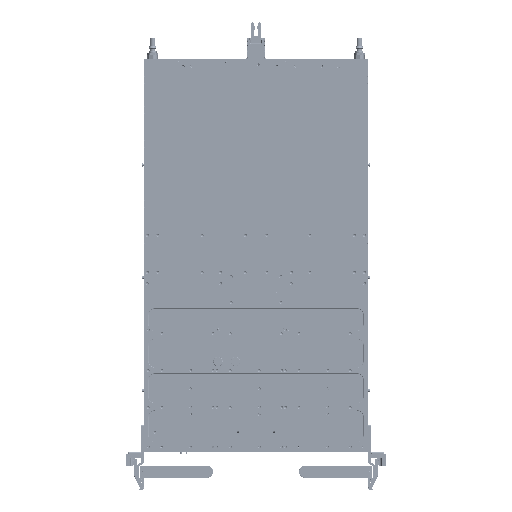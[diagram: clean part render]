
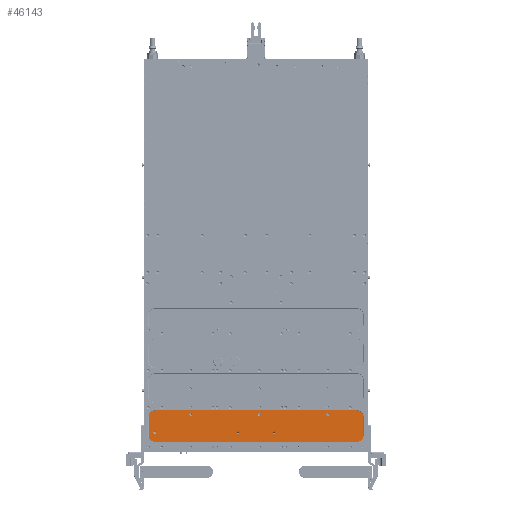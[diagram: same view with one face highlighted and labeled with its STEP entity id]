
A CAD part, front view. The second image highlights one B-rep face of the part: STEP entity #46143.
In plain terms, the highlighted planar face has unit normal (0, -1, 0).
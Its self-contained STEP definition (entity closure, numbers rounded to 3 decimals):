
#573=CARTESIAN_POINT('',(196.8,0.3,-781.55));
#574=DIRECTION('',(0.,1.,0.));
#575=DIRECTION('',(0.,0.,1.));
#576=AXIS2_PLACEMENT_3D('',#573,#574,#575);
#578=CARTESIAN_POINT('',(196.8,0.3,-817.));
#579=DIRECTION('',(0.,1.,0.));
#580=DIRECTION('',(1.,0.,0.));
#581=AXIS2_PLACEMENT_3D('',#578,#579,#580);
#583=CARTESIAN_POINT('',(-196.8,0.3,-817.));
#584=DIRECTION('',(0.,1.,0.));
#585=DIRECTION('',(0.,0.,-1.));
#586=AXIS2_PLACEMENT_3D('',#583,#584,#585);
#588=CARTESIAN_POINT('',(-196.8,0.3,-781.55));
#589=DIRECTION('',(0.,1.,0.));
#590=DIRECTION('',(-1.,0.,0.));
#591=AXIS2_PLACEMENT_3D('',#588,#589,#590);
#593=CARTESIAN_POINT('',(-197.05,0.3,-812.));
#594=DIRECTION('',(0.,-1.,0.));
#595=DIRECTION('',(-1.,0.,0.));
#596=AXIS2_PLACEMENT_3D('',#593,#594,#595);
#598=CARTESIAN_POINT('',(-197.05,0.3,-812.));
#599=DIRECTION('',(0.,-1.,0.));
#600=DIRECTION('',(1.,0.,0.));
#601=AXIS2_PLACEMENT_3D('',#598,#599,#600);
#603=CARTESIAN_POINT('',(140.,0.3,-776.6));
#604=DIRECTION('',(0.,-1.,0.));
#605=DIRECTION('',(0.,0.,1.));
#606=AXIS2_PLACEMENT_3D('',#603,#604,#605);
#608=CARTESIAN_POINT('',(140.,0.3,-776.6));
#609=DIRECTION('',(0.,-1.,0.));
#610=DIRECTION('',(0.,0.,-1.));
#611=AXIS2_PLACEMENT_3D('',#608,#609,#610);
#613=CARTESIAN_POINT('',(6.3,0.3,-776.6));
#614=DIRECTION('',(0.,-1.,0.));
#615=DIRECTION('',(0.,0.,1.));
#616=AXIS2_PLACEMENT_3D('',#613,#614,#615);
#618=CARTESIAN_POINT('',(6.3,0.3,-776.6));
#619=DIRECTION('',(0.,-1.,0.));
#620=DIRECTION('',(0.,0.,-1.));
#621=AXIS2_PLACEMENT_3D('',#618,#619,#620);
#623=CARTESIAN_POINT('',(-127.41,0.3,-776.6));
#624=DIRECTION('',(0.,-1.,0.));
#625=DIRECTION('',(0.,0.,1.));
#626=AXIS2_PLACEMENT_3D('',#623,#624,#625);
#628=CARTESIAN_POINT('',(-127.41,0.3,-776.6));
#629=DIRECTION('',(0.,-1.,0.));
#630=DIRECTION('',(0.,0.,-1.));
#631=AXIS2_PLACEMENT_3D('',#628,#629,#630);
#633=CARTESIAN_POINT('',(-35.1,0.3,-812.));
#634=DIRECTION('',(0.,-1.,0.));
#635=DIRECTION('',(0.,0.,-1.));
#636=AXIS2_PLACEMENT_3D('',#633,#634,#635);
#638=CARTESIAN_POINT('',(-35.1,0.3,-812.));
#639=DIRECTION('',(0.,-1.,0.));
#640=DIRECTION('',(0.,0.,1.));
#641=AXIS2_PLACEMENT_3D('',#638,#639,#640);
#643=CARTESIAN_POINT('',(-35.1,0.3,-812.));
#644=DIRECTION('',(0.,-1.,0.));
#645=DIRECTION('',(-1.,0.,0.));
#646=AXIS2_PLACEMENT_3D('',#643,#644,#645);
#648=CARTESIAN_POINT('',(35.1,0.3,-812.));
#649=DIRECTION('',(0.,-1.,0.));
#650=DIRECTION('',(0.,0.,-1.));
#651=AXIS2_PLACEMENT_3D('',#648,#649,#650);
#653=CARTESIAN_POINT('',(35.1,0.3,-812.));
#654=DIRECTION('',(0.,-1.,0.));
#655=DIRECTION('',(0.,0.,1.));
#656=AXIS2_PLACEMENT_3D('',#653,#654,#655);
#658=CARTESIAN_POINT('',(35.1,0.3,-812.));
#659=DIRECTION('',(0.,-1.,0.));
#660=DIRECTION('',(-1.,0.,0.));
#661=AXIS2_PLACEMENT_3D('',#658,#659,#660);
#667=DIRECTION('',(-1.,0.,0.));
#668=VECTOR('',#667,393.6);
#669=CARTESIAN_POINT('',(196.8,0.3,-768.847));
#670=LINE('',#669,#668);
#35126=DIRECTION('',(0.,0.,-1.));
#35127=VECTOR('',#35126,35.45);
#35128=CARTESIAN_POINT('',(-209.503,0.3,
-781.55));
#35129=LINE('',#35128,#35127);
#35144=DIRECTION('',(1.,0.,0.));
#35145=VECTOR('',#35144,393.6);
#35146=CARTESIAN_POINT('',(-196.8,0.3,
-829.703));
#35147=LINE('',#35146,#35145);
#35162=DIRECTION('',(0.,0.,1.));
#35163=VECTOR('',#35162,35.45);
#35164=CARTESIAN_POINT('',(209.503,0.3,
-817.));
#35165=LINE('',#35164,#35163);
#35752=CARTESIAN_POINT('',(196.8,0.3,
-768.847));
#35753=CARTESIAN_POINT('',(-196.8,0.3,
-768.847));
#35754=VERTEX_POINT('',#35752);
#35755=VERTEX_POINT('',#35753);
#35756=CARTESIAN_POINT('',(209.503,0.3,
-781.55));
#35757=VERTEX_POINT('',#35756);
#35758=CARTESIAN_POINT('',(209.503,0.3,
-817.));
#35759=VERTEX_POINT('',#35758);
#35760=CARTESIAN_POINT('',(196.8,0.3,
-829.703));
#35761=VERTEX_POINT('',#35760);
#35762=CARTESIAN_POINT('',(-196.8,0.3,
-829.703));
#35763=VERTEX_POINT('',#35762);
#35764=CARTESIAN_POINT('',(-209.503,0.3,
-817.));
#35765=VERTEX_POINT('',#35764);
#35766=CARTESIAN_POINT('',(-209.503,0.3,
-781.55));
#35767=VERTEX_POINT('',#35766);
#35768=CARTESIAN_POINT('',(-200.15,0.3,-812.));
#35769=CARTESIAN_POINT('',(-193.95,0.3,-812.));
#35770=VERTEX_POINT('',#35768);
#35771=VERTEX_POINT('',#35769);
#35772=CARTESIAN_POINT('',(140.,0.3,-773.714));
#35773=CARTESIAN_POINT('',(140.,0.3,-779.486));
#35774=VERTEX_POINT('',#35772);
#35775=VERTEX_POINT('',#35773);
#35776=CARTESIAN_POINT('',(6.3,0.3,-773.714));
#35777=CARTESIAN_POINT('',(6.3,0.3,-779.486));
#35778=VERTEX_POINT('',#35776);
#35779=VERTEX_POINT('',#35777);
#35780=CARTESIAN_POINT('',(-127.41,0.3,-773.714));
#35781=CARTESIAN_POINT('',(-127.41,0.3,-779.486));
#35782=VERTEX_POINT('',#35780);
#35783=VERTEX_POINT('',#35781);
#35784=CARTESIAN_POINT('',(-35.1,0.3,-814.886));
#35785=CARTESIAN_POINT('',(-35.1,0.3,-809.114));
#35786=VERTEX_POINT('',#35784);
#35787=VERTEX_POINT('',#35785);
#35788=CARTESIAN_POINT('',(-37.986,0.3,-812.));
#35789=VERTEX_POINT('',#35788);
#35790=CARTESIAN_POINT('',(35.1,0.3,-814.886));
#35791=CARTESIAN_POINT('',(35.1,0.3,-809.114));
#35792=VERTEX_POINT('',#35790);
#35793=VERTEX_POINT('',#35791);
#35794=CARTESIAN_POINT('',(32.214,0.3,-812.));
#35795=VERTEX_POINT('',#35794);
#46080=CARTESIAN_POINT('',(0.,0.3,0.));
#46081=DIRECTION('',(0.,1.,0.));
#46082=DIRECTION('',(-1.,0.,0.));
#46083=AXIS2_PLACEMENT_3D('',#46080,#46081,#46082);
#46084=PLANE('',#46083);
#46086=ORIENTED_EDGE('',*,*,#46085,.F.);
#46088=ORIENTED_EDGE('',*,*,#46087,.T.);
#46090=ORIENTED_EDGE('',*,*,#46089,.F.);
#46092=ORIENTED_EDGE('',*,*,#46091,.T.);
#46094=ORIENTED_EDGE('',*,*,#46093,.F.);
#46096=ORIENTED_EDGE('',*,*,#46095,.T.);
#46098=ORIENTED_EDGE('',*,*,#46097,.F.);
#46100=ORIENTED_EDGE('',*,*,#46099,.T.);
#46101=EDGE_LOOP('',(#46086,#46088,#46090,#46092,#46094,#46096,#46098,#46100));
#46102=FACE_OUTER_BOUND('',#46101,.F.);
#46104=ORIENTED_EDGE('',*,*,#46103,.T.);
#46106=ORIENTED_EDGE('',*,*,#46105,.T.);
#46107=EDGE_LOOP('',(#46104,#46106));
#46108=FACE_BOUND('',#46107,.F.);
#46110=ORIENTED_EDGE('',*,*,#46109,.T.);
#46112=ORIENTED_EDGE('',*,*,#46111,.T.);
#46113=EDGE_LOOP('',(#46110,#46112));
#46114=FACE_BOUND('',#46113,.F.);
#46116=ORIENTED_EDGE('',*,*,#46115,.T.);
#46118=ORIENTED_EDGE('',*,*,#46117,.T.);
#46119=EDGE_LOOP('',(#46116,#46118));
#46120=FACE_BOUND('',#46119,.F.);
#46122=ORIENTED_EDGE('',*,*,#46121,.T.);
#46124=ORIENTED_EDGE('',*,*,#46123,.T.);
#46125=EDGE_LOOP('',(#46122,#46124));
#46126=FACE_BOUND('',#46125,.F.);
#46128=ORIENTED_EDGE('',*,*,#46127,.T.);
#46130=ORIENTED_EDGE('',*,*,#46129,.T.);
#46132=ORIENTED_EDGE('',*,*,#46131,.T.);
#46133=EDGE_LOOP('',(#46128,#46130,#46132));
#46134=FACE_BOUND('',#46133,.F.);
#46136=ORIENTED_EDGE('',*,*,#46135,.T.);
#46138=ORIENTED_EDGE('',*,*,#46137,.T.);
#46140=ORIENTED_EDGE('',*,*,#46139,.T.);
#46141=EDGE_LOOP('',(#46136,#46138,#46140));
#46142=FACE_BOUND('',#46141,.F.);
#46143=ADVANCED_FACE('',(#46102,#46108,#46114,#46120,#46126,#46134,#46142),
#46084,.F.);
#577=CIRCLE('',#576,12.703);
#582=CIRCLE('',#581,12.703);
#587=CIRCLE('',#586,12.703);
#592=CIRCLE('',#591,12.703);
#597=CIRCLE('',#596,3.1);
#602=CIRCLE('',#601,3.1);
#607=CIRCLE('',#606,2.886);
#612=CIRCLE('',#611,2.886);
#617=CIRCLE('',#616,2.886);
#622=CIRCLE('',#621,2.886);
#627=CIRCLE('',#626,2.886);
#632=CIRCLE('',#631,2.886);
#637=CIRCLE('',#636,2.886);
#642=CIRCLE('',#641,2.886);
#647=CIRCLE('',#646,2.886);
#652=CIRCLE('',#651,2.886);
#657=CIRCLE('',#656,2.886);
#662=CIRCLE('',#661,2.886);
#46085=EDGE_CURVE('',#35754,#35755,#670,.T.);
#46087=EDGE_CURVE('',#35754,#35757,#577,.T.);
#46089=EDGE_CURVE('',#35759,#35757,#35165,.T.);
#46091=EDGE_CURVE('',#35759,#35761,#582,.T.);
#46093=EDGE_CURVE('',#35763,#35761,#35147,.T.);
#46095=EDGE_CURVE('',#35763,#35765,#587,.T.);
#46097=EDGE_CURVE('',#35767,#35765,#35129,.T.);
#46099=EDGE_CURVE('',#35767,#35755,#592,.T.);
#46103=EDGE_CURVE('',#35770,#35771,#597,.T.);
#46105=EDGE_CURVE('',#35771,#35770,#602,.T.);
#46109=EDGE_CURVE('',#35774,#35775,#607,.T.);
#46111=EDGE_CURVE('',#35775,#35774,#612,.T.);
#46115=EDGE_CURVE('',#35778,#35779,#617,.T.);
#46117=EDGE_CURVE('',#35779,#35778,#622,.T.);
#46121=EDGE_CURVE('',#35782,#35783,#627,.T.);
#46123=EDGE_CURVE('',#35783,#35782,#632,.T.);
#46127=EDGE_CURVE('',#35786,#35787,#637,.T.);
#46129=EDGE_CURVE('',#35787,#35789,#642,.T.);
#46131=EDGE_CURVE('',#35789,#35786,#647,.T.);
#46135=EDGE_CURVE('',#35792,#35793,#652,.T.);
#46137=EDGE_CURVE('',#35793,#35795,#657,.T.);
#46139=EDGE_CURVE('',#35795,#35792,#662,.T.);
